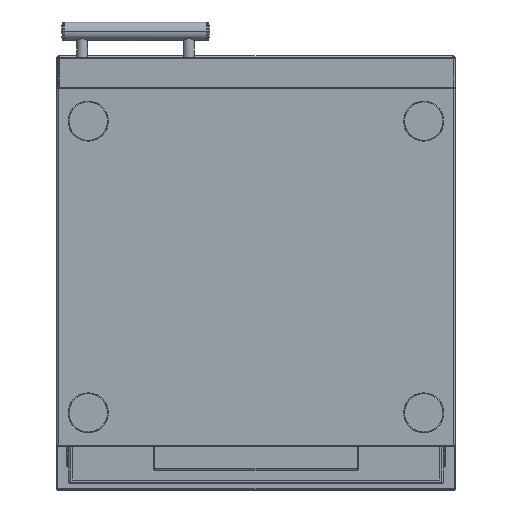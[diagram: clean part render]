
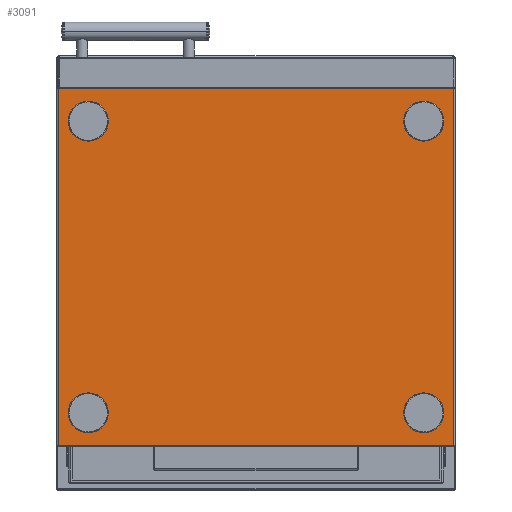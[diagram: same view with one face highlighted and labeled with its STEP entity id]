
A CAD part, front view. The second image highlights one B-rep face of the part: STEP entity #3091.
In plain terms, the highlighted planar face has unit normal (0, -1, 0).
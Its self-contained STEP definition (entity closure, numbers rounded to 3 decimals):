
#877=CARTESIAN_POINT('',(252.,-352.5,-219.));
#878=DIRECTION('',(0.,-1.,0.));
#879=DIRECTION('',(1.,0.,0.));
#880=AXIS2_PLACEMENT_3D('',#877,#878,#879);
#882=CARTESIAN_POINT('',(252.,-352.5,-219.));
#883=DIRECTION('',(0.,-1.,0.));
#884=DIRECTION('',(-1.,0.,0.));
#885=AXIS2_PLACEMENT_3D('',#882,#883,#884);
#887=CARTESIAN_POINT('',(252.,-352.5,219.));
#888=DIRECTION('',(0.,-1.,0.));
#889=DIRECTION('',(1.,0.,0.));
#890=AXIS2_PLACEMENT_3D('',#887,#888,#889);
#892=CARTESIAN_POINT('',(252.,-352.5,219.));
#893=DIRECTION('',(0.,-1.,0.));
#894=DIRECTION('',(-1.,0.,0.));
#895=AXIS2_PLACEMENT_3D('',#892,#893,#894);
#897=CARTESIAN_POINT('',(-252.,-352.5,-219.));
#898=DIRECTION('',(0.,1.,0.));
#899=DIRECTION('',(-1.,0.,0.));
#900=AXIS2_PLACEMENT_3D('',#897,#898,#899);
#902=CARTESIAN_POINT('',(-252.,-352.5,-219.));
#903=DIRECTION('',(0.,1.,0.));
#904=DIRECTION('',(1.,0.,0.));
#905=AXIS2_PLACEMENT_3D('',#902,#903,#904);
#907=CARTESIAN_POINT('',(-252.,-352.5,219.));
#908=DIRECTION('',(0.,1.,0.));
#909=DIRECTION('',(-1.,0.,0.));
#910=AXIS2_PLACEMENT_3D('',#907,#908,#909);
#912=CARTESIAN_POINT('',(-252.,-352.5,219.));
#913=DIRECTION('',(0.,1.,0.));
#914=DIRECTION('',(1.,0.,0.));
#915=AXIS2_PLACEMENT_3D('',#912,#913,#914);
#917=DIRECTION('',(0.,0.,-1.));
#918=VECTOR('',#917,536.4);
#919=CARTESIAN_POINT('',(297.2,-352.5,268.2));
#920=LINE('',#919,#918);
#921=DIRECTION('',(-1.,0.,0.));
#922=VECTOR('',#921,594.4);
#923=CARTESIAN_POINT('',(297.2,-352.5,-268.2));
#924=LINE('',#923,#922);
#925=DIRECTION('',(0.,0.,1.));
#926=VECTOR('',#925,536.4);
#927=CARTESIAN_POINT('',(-297.2,-352.5,-268.2));
#928=LINE('',#927,#926);
#929=DIRECTION('',(-1.,0.,0.));
#930=VECTOR('',#929,594.4);
#931=CARTESIAN_POINT('',(297.2,-352.5,268.2));
#932=LINE('',#931,#930);
#1456=CARTESIAN_POINT('',(282.,-352.5,-219.));
#1457=CARTESIAN_POINT('',(222.,-352.5,-219.));
#1458=VERTEX_POINT('',#1456);
#1459=VERTEX_POINT('',#1457);
#1488=CARTESIAN_POINT('',(297.2,-352.5,268.2));
#1489=CARTESIAN_POINT('',(297.2,-352.5,-268.2));
#1490=VERTEX_POINT('',#1488);
#1491=VERTEX_POINT('',#1489);
#1494=CARTESIAN_POINT('',(-297.2,-352.5,268.2));
#1495=VERTEX_POINT('',#1494);
#1498=CARTESIAN_POINT('',(-297.2,-352.5,-268.2));
#1499=VERTEX_POINT('',#1498);
#1556=CARTESIAN_POINT('',(282.,-352.5,219.));
#1557=CARTESIAN_POINT('',(222.,-352.5,219.));
#1558=VERTEX_POINT('',#1556);
#1559=VERTEX_POINT('',#1557);
#1564=CARTESIAN_POINT('',(-282.,-352.5,-219.));
#1565=VERTEX_POINT('',#1564);
#1566=CARTESIAN_POINT('',(-222.,-352.5,-219.));
#1567=VERTEX_POINT('',#1566);
#1572=CARTESIAN_POINT('',(-282.,-352.5,219.));
#1573=VERTEX_POINT('',#1572);
#1574=CARTESIAN_POINT('',(-222.,-352.5,219.));
#1575=VERTEX_POINT('',#1574);
#3054=CARTESIAN_POINT('',(-299.,-352.5,270.));
#3055=DIRECTION('',(0.,-1.,0.));
#3056=DIRECTION('',(0.,0.,-1.));
#3057=AXIS2_PLACEMENT_3D('',#3054,#3055,#3056);
#3058=PLANE('',#3057);
#3060=ORIENTED_EDGE('',*,*,#3059,.T.);
#3062=ORIENTED_EDGE('',*,*,#3061,.T.);
#3063=ORIENTED_EDGE('',*,*,#3022,.T.);
#3064=ORIENTED_EDGE('',*,*,#3045,.F.);
#3065=EDGE_LOOP('',(#3060,#3062,#3063,#3064));
#3066=FACE_OUTER_BOUND('',#3065,.F.);
#3068=ORIENTED_EDGE('',*,*,#3067,.T.);
#3070=ORIENTED_EDGE('',*,*,#3069,.T.);
#3071=EDGE_LOOP('',(#3068,#3070));
#3072=FACE_BOUND('',#3071,.F.);
#3074=ORIENTED_EDGE('',*,*,#3073,.F.);
#3076=ORIENTED_EDGE('',*,*,#3075,.F.);
#3077=EDGE_LOOP('',(#3074,#3076));
#3078=FACE_BOUND('',#3077,.F.);
#3080=ORIENTED_EDGE('',*,*,#3079,.F.);
#3082=ORIENTED_EDGE('',*,*,#3081,.F.);
#3083=EDGE_LOOP('',(#3080,#3082));
#3084=FACE_BOUND('',#3083,.F.);
#3086=ORIENTED_EDGE('',*,*,#3085,.T.);
#3088=ORIENTED_EDGE('',*,*,#3087,.T.);
#3089=EDGE_LOOP('',(#3086,#3088));
#3090=FACE_BOUND('',#3089,.F.);
#881=CIRCLE('',#880,30.);
#886=CIRCLE('',#885,30.);
#891=CIRCLE('',#890,30.);
#896=CIRCLE('',#895,30.);
#901=CIRCLE('',#900,30.);
#906=CIRCLE('',#905,30.);
#911=CIRCLE('',#910,30.);
#916=CIRCLE('',#915,30.);
#3022=EDGE_CURVE('',#1499,#1495,#928,.T.);
#3045=EDGE_CURVE('',#1490,#1495,#932,.T.);
#3059=EDGE_CURVE('',#1490,#1491,#920,.T.);
#3061=EDGE_CURVE('',#1491,#1499,#924,.T.);
#3067=EDGE_CURVE('',#1558,#1559,#891,.T.);
#3069=EDGE_CURVE('',#1559,#1558,#896,.T.);
#3073=EDGE_CURVE('',#1565,#1567,#901,.T.);
#3075=EDGE_CURVE('',#1567,#1565,#906,.T.);
#3079=EDGE_CURVE('',#1573,#1575,#911,.T.);
#3081=EDGE_CURVE('',#1575,#1573,#916,.T.);
#3085=EDGE_CURVE('',#1458,#1459,#881,.T.);
#3087=EDGE_CURVE('',#1459,#1458,#886,.T.);
#3091=ADVANCED_FACE('',(#3066,#3072,#3078,#3084,#3090),#3058,.T.);
